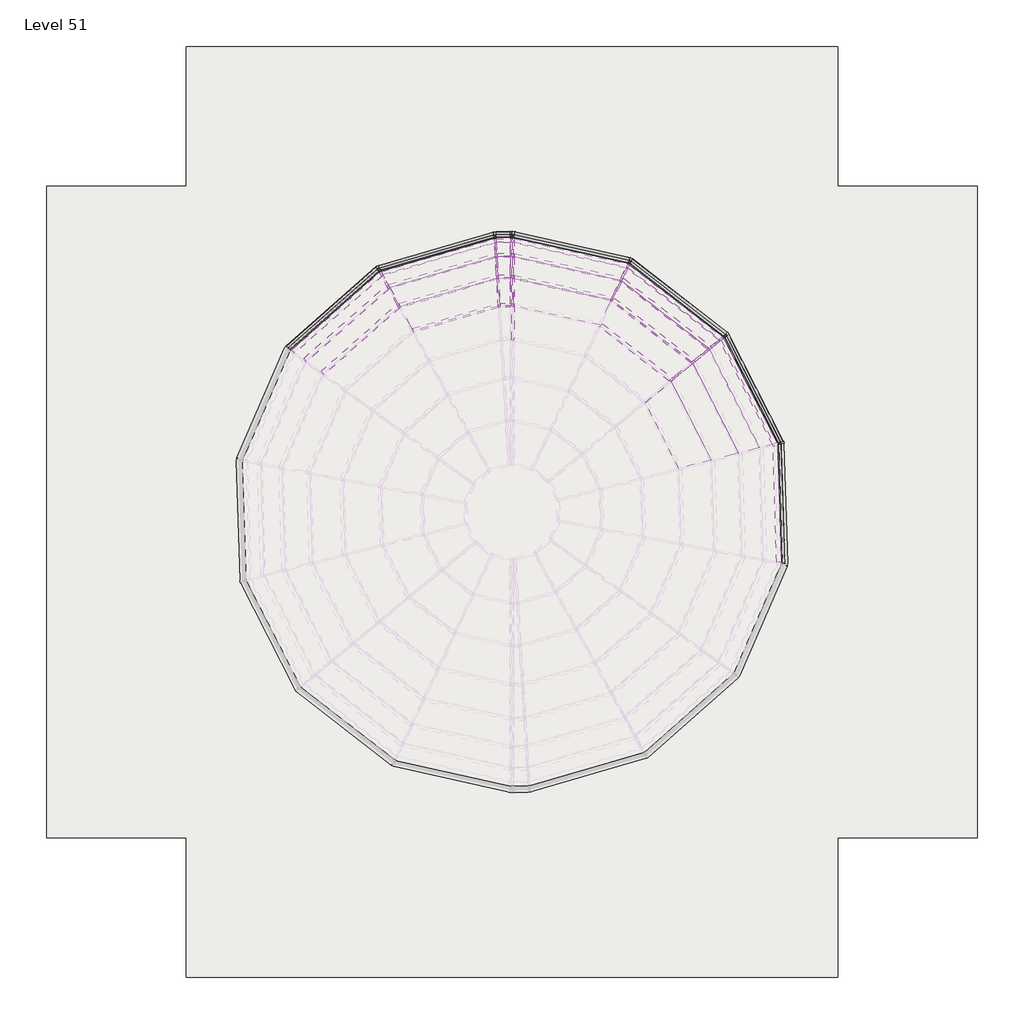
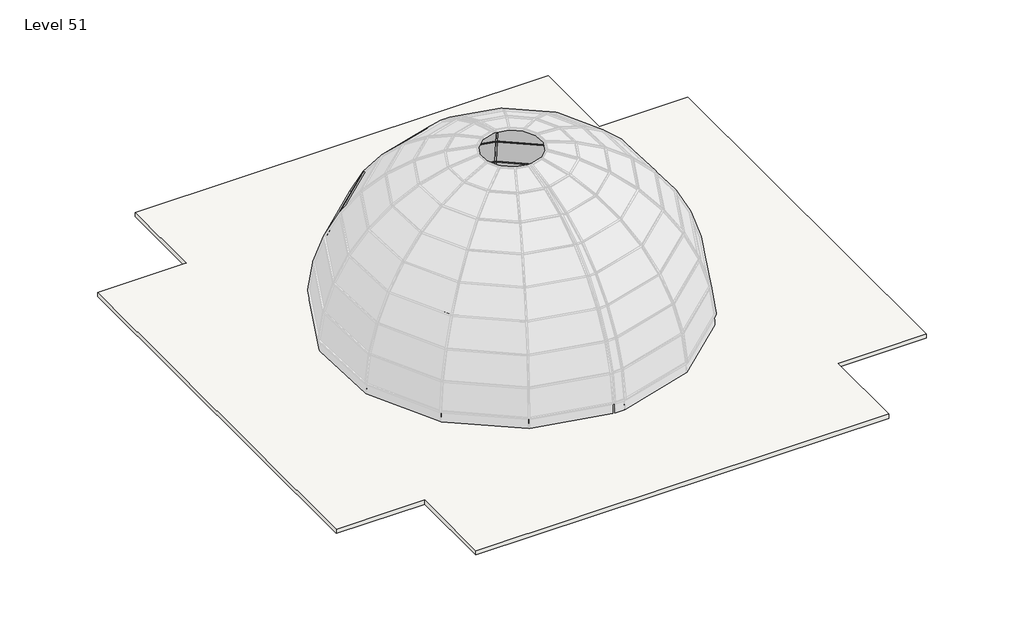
# One storey, part 5 of 5: 50 members, 29 plates, 1 roof.
"""IFC4 building model written with IfcOpenShell, lengths in millimetres."""

from ifc_helpers import new_model, si_unit, frame, origin, place, context, project, spatial, polyline, outline, extrude, transform, mapped, element, save
from components import member_d183bd50, member_3761eb40, member_c8fdef67, member_19265363, member_bab2e2f0, member_1b14bcb5, member_1e4e3dac, member_4ad3c4be, member_44404943, member_f539bf5b, member_d9f9b3f1, member_01029f2d, member_43068072, member_3efaebad, member_1612663b, member_5eaec6db, member_6411af83, member_606bd935, member_05436e89, member_70710cef, member_ac0e8256, member_b7186879, member_3d04d663, member_1ac3cc72, member_84afa52a, system_panel_glazed_891999a5, system_panel_glazed_607d1a2e, system_panel_glazed_cbcbf4f6, system_panel_glazed_3a6c43c9, system_panel_glazed_65fa72c3, system_panel_glazed_e82b84bd, system_panel_glazed_8c73bb97, system_panel_glazed_248316cd, system_panel_glazed_11359935, system_panel_glazed_cbb9f742, system_panel_glazed_d27af8dd, system_panel_glazed_44e6ebe2, system_panel_glazed_fd8bc869, system_panel_glazed_955ccf0d, system_panel_glazed_4a3a9a20, system_panel_glazed_d1219a01

model = new_model("IFC4")

# Units and contexts
model_context = context("Model", 3, world=origin())
ifc_project = project(units=[si_unit("LENGTHUNIT", "METRE", prefix="MILLI")], contexts=[model_context])

# Site, building, storey
site = spatial("IfcSite", under=ifc_project)
building = spatial("IfcBuilding", under=site)
storey = spatial("IfcBuildingStorey", under=building, Name="Level 51", Elevation=152400.0)

# Members
placement = place(None, origin())
member_shape = member_d183bd50(model_context)
element("IfcMember", 1, ObjectType="Rectangular Mullion : 2.5\" x 5\" rectangular", at=placement, inside=storey, context=model_context, shape_type="MappedRepresentation", body=[
    mapped(member_shape, transform((-893.6915097, 1788.891923, 153025.5719668), x_axis=(-0.04631017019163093, 0.052617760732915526, -0.9975403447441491), y_axis=(-0.6590554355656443, 0.7488208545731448, 0.07009465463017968), z_axis=(0.7506672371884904, 0.6606804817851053, 0.0))),
])
element("IfcMember", 2, ObjectType="Rectangular Mullion : 2.5\" x 5\" rectangular", at=placement, inside=storey, context=model_context, shape_type="MappedRepresentation", body=[
    mapped(member_shape, transform((2924.0779015, 2908.0188385, 153025.5719668), x_axis=(-0.019488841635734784, 0.06733086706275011, -0.9975403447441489), y_axis=(-0.2773521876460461, 0.9582079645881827, 0.07009465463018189), z_axis=(0.9605706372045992, 0.2780360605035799, 0.0))),
])
element("IfcMember", 3, ObjectType="Rectangular Mullion : 2.5\" x 5\" rectangular", at=placement, inside=storey, context=model_context, shape_type="MappedRepresentation", body=[
    mapped(member_shape, transform((10523.398686, -356.0730313, 153025.5719668), x_axis=(0.042974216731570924, 0.055375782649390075, -0.997540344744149), y_axis=(0.6115803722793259, 0.788071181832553, 0.07009465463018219), z_axis=(0.7900143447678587, -0.6130883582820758, 0.0))),
])
element("IfcMember", 4, ObjectType="Rectangular Mullion : 2.5\" x 5\" rectangular", at=placement, inside=storey, context=model_context, shape_type="MappedRepresentation", body=[
    mapped(member_shape, transform((12340.2476125, -3895.4046503, 153025.5719668), x_axis=(0.06246696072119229, 0.03179841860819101, -0.9975403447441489), y_axis=(0.8889880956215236, 0.45253387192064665, 0.07009465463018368), z_axis=(0.45364969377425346, -0.8911800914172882, 0.0))),
])
member_2_shape = member_3761eb40(model_context)
element("IfcMember", 5, ObjectType="Rectangular Mullion : 2.5\" x 5\" rectangular", at=placement, inside=storey, context=model_context, shape_type="MappedRepresentation", body=[
    mapped(member_2_shape, transform((3454.1673289, 2932.2790112, 153025.5719668), x_axis=(-0.0021133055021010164, 0.06841322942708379, -0.9976548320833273), y_axis=(-0.03080316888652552, 0.9971791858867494, 0.06844586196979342), z_axis=(0.9995232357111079, 0.0308755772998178, 0.0))),
])
member_3_shape = member_c8fdef67(model_context)
element("IfcMember", 6, ObjectType="Rectangular Mullion : 2.5\" x 5\" rectangular", at=placement, inside=storey, context=model_context, shape_type="MappedRepresentation", body=[
    mapped(member_3_shape, transform((3454.1673289, 2224.0761441, 155979.2538554), x_axis=(-0.01209056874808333, 0.39140335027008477, -0.9201397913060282), y_axis=(-0.028409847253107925, 0.9197011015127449, 0.3915900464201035), z_axis=(0.9995232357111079, 0.030875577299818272, 0.0))),
])
member_4_shape = member_19265363(model_context)
element("IfcMember", 7, ObjectType="Rectangular Mullion : 2.5\" x 5\" rectangular", at=placement, inside=storey, context=model_context, shape_type="MappedRepresentation", body=[
    mapped(member_4_shape, transform((7273.9015864, 1863.7115372, 154532.0243606), x_axis=(0.05206567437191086, 0.23284477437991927, -0.9711191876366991), y_axis=(0.21191558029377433, 0.9477152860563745, 0.23859489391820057), z_axis=(0.9759000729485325, -0.21821789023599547, 0.0))),
])
member_5_shape = member_bab2e2f0(model_context)
element("IfcMember", 8, ObjectType="Rectangular Mullion : 2.5\" x 5\" rectangular", at=placement, inside=storey, context=model_context, shape_type="MappedRepresentation", body=[
    mapped(member_5_shape, transform((-782.7837843, 1586.712147, 154532.0243606), x_axis=(-0.15763498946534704, 0.17910536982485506, -0.9711191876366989), y_axis=(-0.6415994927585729, 0.728987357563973, 0.2385948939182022), z_axis=(0.7506672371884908, 0.6606804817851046, 0.0))),
])
element("IfcMember", 9, ObjectType="Rectangular Mullion : 2.5\" x 5\" rectangular", at=placement, inside=storey, context=model_context, shape_type="MappedRepresentation", body=[
    mapped(member_5_shape, transform((2938.3110392, 2677.8567149, 154532.0243606), x_axis=(-0.06633798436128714, 0.22918724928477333, -0.9711191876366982), y_axis=(-0.27000615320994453, 0.932828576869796, 0.23859489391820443), z_axis=(0.9605706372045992, 0.27803606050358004, 0.0))),
])
element("IfcMember", 10, ObjectType="Rectangular Mullion : 2.5\" x 5\" rectangular", at=placement, inside=storey, context=model_context, shape_type="MappedRepresentation", body=[
    mapped(member_5_shape, transform((10345.6719873, -503.0097725, 154532.0243606), x_axis=(0.14627975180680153, 0.18849338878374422, -0.9711191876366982), y_axis=(0.5953818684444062, 0.7671980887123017, 0.2385948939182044), z_axis=(0.7900143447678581, -0.6130883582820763, 0.0))),
])
element("IfcMember", 11, ObjectType="Rectangular Mullion : 2.5\" x 5\" rectangular", at=placement, inside=storey, context=model_context, shape_type="MappedRepresentation", body=[
    mapped(member_5_shape, transform((12116.8643057, -3952.6504676, 154532.0243606), x_axis=(0.21263101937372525, 0.10823850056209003, -0.9711191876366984), y_axis=(0.8654420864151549, 0.4405479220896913, 0.23859489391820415), z_axis=(0.4536496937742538, -0.8911800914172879, 0.0))),
])
element("IfcMember", 12, ObjectType="Rectangular Mullion : 2.5\" x 5\" rectangular", at=placement, inside=storey, context=model_context, shape_type="MappedRepresentation", body=[
    mapped(member_5_shape, transform((12250.1085762, -7828.1361298, 154532.0243606), x_axis=(0.23848114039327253, 0.007366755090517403, -0.9711191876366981), y_axis=(0.9706561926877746, 0.029983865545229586, 0.23859489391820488), z_axis=(0.03087557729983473, -0.9995232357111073, 0.0))),
])
member_6_shape = member_1b14bcb5(model_context)
element("IfcMember", 13, ObjectType="Rectangular Mullion : 2.5\" x 5\" rectangular", at=placement, inside=storey, context=model_context, shape_type="MappedRepresentation", body=[
    mapped(member_6_shape, transform((3454.1673289, 2701.6772216, 154532.0243606), x_axis=(-0.00720222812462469, 0.23315497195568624, -0.9724129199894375), y_axis=(-0.03002381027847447, 0.9719493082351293, 0.2332661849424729), z_axis=(0.9995232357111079, 0.030875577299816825, 0.0))),
])
member_7_shape = member_1e4e3dac(model_context)
element("IfcMember", 14, ObjectType="Rectangular Mullion : 2.5\" x 5\" rectangular", at=placement, inside=storey, context=model_context, shape_type="MappedRepresentation", body=[
    mapped(member_7_shape, transform((7372.1189725, 2072.3512516, 153025.5719668), x_axis=(0.015295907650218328, 0.0684053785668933, -0.9975403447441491), y_axis=(0.21768114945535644, 0.9734996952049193, 0.07009465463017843), z_axis=(0.9759000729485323, -0.21821789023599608, 0.0))),
])
member_8_shape = member_4ad3c4be(model_context)
element("IfcMember", 15, ObjectType="Rectangular Mullion : 2.5\" x 5\" rectangular", at=placement, inside=storey, context=model_context, shape_type="MappedRepresentation", body=[
    mapped(member_8_shape, transform((-210.9666767, 544.3153768, 157327.0596321), x_axis=(-0.3621663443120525, 0.41149453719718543, -0.8363658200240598), y_axis=(-0.5525705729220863, 0.6278324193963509, 0.5481717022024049), z_axis=(0.7506672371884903, 0.6606804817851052, 0.0))),
])
element("IfcMember", 16, ObjectType="Rectangular Mullion : 2.5\" x 5\" rectangular", at=placement, inside=storey, context=model_context, shape_type="MappedRepresentation", body=[
    mapped(member_8_shape, transform((3011.6941294, 1491.1887945, 157327.0596321), x_axis=(-0.15241150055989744, 0.5265576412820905, -0.836365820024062), y_axis=(-0.23253985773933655, 0.8033884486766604, 0.5481717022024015), z_axis=(0.960570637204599, 0.27803606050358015, 0.0))),
])
element("IfcMember", 17, ObjectType="Rectangular Mullion : 2.5\" x 5\" rectangular", at=placement, inside=storey, context=model_context, shape_type="MappedRepresentation", body=[
    mapped(member_8_shape, transform((9429.3501848, -1260.5849737, 157327.0596321), x_axis=(0.33607768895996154, 0.4330635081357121, -0.8363658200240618), y_axis=(0.5127661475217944, 0.6607409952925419, 0.5481717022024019), z_axis=(0.7900143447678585, -0.613088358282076, 0.0))),
])
member_9_shape = member_44404943(model_context)
element("IfcMember", 18, ObjectType="Rectangular Mullion : 2.5\" x 5\" rectangular", at=placement, inside=storey, context=model_context, shape_type="MappedRepresentation", body=[
    mapped(member_9_shape, transform((3454.1673289, 1512.7424752, 157327.0596321), x_axis=(-0.016642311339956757, 0.5387551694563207, -0.8422979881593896), y_axis=(-0.026006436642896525, 0.8418964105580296, 0.5390121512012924), z_axis=(0.9995232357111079, 0.030875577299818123, 0.0))),
])
member_10_shape = member_f539bf5b(model_context)
element("IfcMember", 19, ObjectType="Rectangular Mullion : 2.5\" x 5\" rectangular", at=placement, inside=storey, context=model_context, shape_type="MappedRepresentation", body=[
    mapped(member_10_shape, transform((7070.4828292, 1431.5962766, 155979.2538554), x_axis=(0.08719349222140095, 0.3899411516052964, -0.9167023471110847), y_axis=(0.20004085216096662, 0.8946098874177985, 0.39957077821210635), z_axis=(0.9759000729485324, -0.21821789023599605, 0.0))),
])
member_11_shape = member_d9f9b3f1(model_context)
element("IfcMember", 20, ObjectType="Rectangular Mullion : 2.5\" x 5\" rectangular", at=placement, inside=storey, context=model_context, shape_type="MappedRepresentation", body=[
    mapped(member_11_shape, transform((-553.0819714, 1167.9761128, 155979.2538554), x_axis=(-0.2639886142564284, 0.2999446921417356, -0.9167023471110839), y_axis=(-0.6056473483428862, 0.6881384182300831, 0.3995707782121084), z_axis=(0.7506672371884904, 0.6606804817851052, 0.0))),
])
element("IfcMember", 21, ObjectType="Rectangular Mullion : 2.5\" x 5\" rectangular", at=placement, inside=storey, context=model_context, shape_type="MappedRepresentation", body=[
    mapped(member_11_shape, transform((2967.7893963, 2201.1662328, 155979.2538554), x_axis=(-0.11109508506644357, 0.3838159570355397, -0.9167023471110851), y_axis=(-0.2548763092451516, 0.8805573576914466, 0.3995707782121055), z_axis=(0.9605706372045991, 0.27803606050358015, 0.0))),
])
element("IfcMember", 22, ObjectType="Rectangular Mullion : 2.5\" x 5\" rectangular", at=placement, inside=storey, context=model_context, shape_type="MappedRepresentation", body=[
    mapped(member_11_shape, transform((9977.5809028, -807.3315475, 155979.2538554), x_axis=(0.2449721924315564, 0.3156666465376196, -0.9167023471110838), y_axis=(0.5620195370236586, 0.7242080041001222, 0.3995707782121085), z_axis=(0.7900143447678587, -0.6130883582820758, 0.0))),
])
member_12_shape = member_01029f2d(model_context)
element("IfcMember", 23, ObjectType="Rectangular Mullion : 2.5\" x 5\" rectangular", at=placement, inside=storey, context=model_context, shape_type="MappedRepresentation", body=[
    mapped(member_12_shape, transform((3068.8056628, 567.6459956, 158538.0026411), x_axis=(-0.18912489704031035, 0.6533966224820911, -0.7330106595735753), y_axis=(-0.20380339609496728, 0.7041085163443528, 0.6802171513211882), z_axis=(0.9605706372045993, 0.2780360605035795, 0.0))),
])
element("IfcMember", 24, ObjectType="Rectangular Mullion : 2.5\" x 5\" rectangular", at=placement, inside=storey, context=model_context, shape_type="MappedRepresentation", body=[
    mapped(member_12_shape, transform((8716.2084645, -1850.1796781, 158538.0026411), x_axis=(0.4170332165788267, 0.5373813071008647, -0.7330106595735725), y_axis=(0.44940030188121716, 0.5790889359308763, 0.6802171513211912), z_axis=(0.7900143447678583, -0.6130883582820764, 0.0))),
])
member_13_shape = member_43068072(model_context)
element("IfcMember", 25, ObjectType="Rectangular Mullion : 2.5\" x 5\" rectangular", at=placement, inside=storey, context=model_context, shape_type="MappedRepresentation", body=[
    mapped(member_13_shape, transform((3454.1673289, 587.4354836, 158538.0026411), x_axis=(-0.020730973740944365, 0.6711158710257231, -0.7410625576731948), y_axis=(-0.022880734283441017, 0.7407092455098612, 0.6714359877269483), z_axis=(0.9995232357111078, 0.030875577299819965, 0.0))),
])
member_14_shape = member_3efaebad(model_context)
element("IfcMember", 26, ObjectType="Rectangular Mullion : 2.5\" x 5\" rectangular", at=placement, inside=storey, context=model_context, shape_type="MappedRepresentation", body=[
    mapped(member_14_shape, transform((6767.5132219, 788.0086715, 157327.0596321), x_axis=(0.1196208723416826, 0.534960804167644, -0.8363658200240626), y_axis=(0.1825099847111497, 0.8162094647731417, 0.5481717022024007), z_axis=(0.9759000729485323, -0.21821789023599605, 0.0))),
])
member_15_shape = member_1612663b(model_context)
element("IfcMember", 27, ObjectType="Rectangular Mullion : 2.5\" x 5\" rectangular", at=placement, inside=storey, context=model_context, shape_type="MappedRepresentation", body=[
    mapped(member_15_shape, transform((-187.1329919, 565.2919821, 157327.0596321), x_axis=(0.8767485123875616, 0.4809491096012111, 0.0), y_axis=(-0.4253451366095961, 0.7753849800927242, 0.46675437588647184), z_axis=(0.22448510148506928, -0.409226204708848, 0.8843869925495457))),
])
element("IfcMember", 28, ObjectType="Rectangular Mullion : 2.5\" x 5\" rectangular", at=placement, inside=storey, context=model_context, shape_type="MappedRepresentation", body=[
    mapped(member_15_shape, transform((-529.2482866, 1188.9527181, 155979.2538554), x_axis=(0.8767485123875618, 0.4809491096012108, 0.0), y_axis=(-0.45672161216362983, 0.8325828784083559, 0.3133865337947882), z_axis=(0.15072297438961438, -0.27476117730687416, 0.9496256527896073))),
])
element("IfcMember", 29, ObjectType="Rectangular Mullion : 2.5\" x 5\" rectangular", at=placement, inside=storey, context=model_context, shape_type="MappedRepresentation", body=[
    mapped(member_15_shape, transform((3099.3037805, 576.4736405, 158538.0026411), x_axis=(0.9980933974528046, 0.061721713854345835, 0.0), y_axis=(-0.04904296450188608, 0.7930670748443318, 0.6071568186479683), z_axis=(0.037474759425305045, -0.605999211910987, 0.7945820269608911))),
])
element("IfcMember", 30, ObjectType="Rectangular Mullion : 2.5\" x 5\" rectangular", at=placement, inside=storey, context=model_context, shape_type="MappedRepresentation", body=[
    mapped(member_15_shape, transform((3042.1922472, 1500.0164394, 157327.0596321), x_axis=(0.9980933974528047, 0.06172171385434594, 0.0), y_axis=(-0.05458588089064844, 0.8827008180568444, 0.4667543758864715), z_axis=(0.028808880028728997, -0.46586446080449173, 0.8843869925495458))),
])
element("IfcMember", 31, ObjectType="Rectangular Mullion : 2.5\" x 5\" rectangular", at=placement, inside=storey, context=model_context, shape_type="MappedRepresentation", body=[
    mapped(member_15_shape, transform((2998.287514, 2209.9938777, 155979.2538554), x_axis=(0.9980933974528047, 0.06172171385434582, 0.0), y_axis=(-0.058612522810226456, 0.9478150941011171, 0.31338653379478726), z_axis=(0.01934275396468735, -0.31278903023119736, 0.9496256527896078))),
])
element("IfcMember", 32, ObjectType="Rectangular Mullion : 2.5\" x 5\" rectangular", at=placement, inside=storey, context=model_context, shape_type="MappedRepresentation", body=[
    mapped(member_15_shape, transform((8741.29142, -1869.6452335, 158538.0026411), x_axis=(0.6371882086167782, -0.7707082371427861, 0.0), y_axis=(0.6123909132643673, 0.5062982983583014, 0.6071568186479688), z_axis=(-0.46794076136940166, -0.38687316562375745, 0.7945820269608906))),
])
element("IfcMember", 33, ObjectType="Rectangular Mullion : 2.5\" x 5\" rectangular", at=placement, inside=storey, context=model_context, shape_type="MappedRepresentation", body=[
    mapped(member_15_shape, transform((9454.4331403, -1280.0505291, 157327.0596321), x_axis=(0.6371882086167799, -0.7707082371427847, 0.0), y_axis=(0.6816043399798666, 0.563520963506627, 0.4667543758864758), z_axis=(-0.35973144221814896, -0.2974103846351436, 0.8843869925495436))),
])
element("IfcMember", 34, ObjectType="Rectangular Mullion : 2.5\" x 5\" rectangular", at=placement, inside=storey, context=model_context, shape_type="MappedRepresentation", body=[
    mapped(member_15_shape, transform((10002.6638582, -826.7971029, 155979.2538554), x_axis=(0.6371882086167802, -0.7707082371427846, 0.0), y_axis=(0.7318843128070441, 0.6050902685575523, 0.3133865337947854), z_axis=(-0.24152958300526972, -0.19968620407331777, 0.9496256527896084))),
])
element("IfcMember", 35, ObjectType="Rectangular Mullion : 2.5\" x 5\" rectangular", at=placement, inside=storey, context=model_context, shape_type="MappedRepresentation", body=[
    mapped(member_15_shape, transform((6798.4980492, 781.0802535, 157327.0596321), x_axis=(0.9047619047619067, -0.42591770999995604, 0.0), y_axis=(0.37667608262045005, 0.8001596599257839, 0.46675437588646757), z_axis=(-0.19879895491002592, -0.4223015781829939, 0.8843869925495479))),
])
element("IfcMember", 36, ObjectType="Rectangular Mullion : 2.5\" x 5\" rectangular", at=placement, inside=storey, context=model_context, shape_type="MappedRepresentation", body=[
    mapped(member_15_shape, transform((7101.4676565, 1424.6678586, 155979.2538554), x_axis=(0.9047619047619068, -0.42591770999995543, 0.0), y_axis=(0.40446238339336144, 0.8591851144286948, 0.3133865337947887), z_axis=(-0.13347687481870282, -0.28354019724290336, 0.9496256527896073))),
])
member_16_shape = member_5eaec6db(model_context)
element("IfcMember", 37, ObjectType="Rectangular Mullion : 2.5\" x 5\" rectangular", at=placement, inside=storey, context=model_context, shape_type="MappedRepresentation", body=[
    mapped(member_16_shape, transform((-758.9500996, 1607.6887523, 154532.0243606), x_axis=(0.8767485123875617, 0.48094910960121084, 0.0), y_axis=(-0.47541137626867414, 0.8666534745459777, 0.15131351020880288), z_axis=(0.07277409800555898, -0.1326638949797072, 0.9884858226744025))),
])
element("IfcMember", 38, ObjectType="Rectangular Mullion : 2.5\" x 5\" rectangular", at=placement, inside=storey, context=model_context, shape_type="MappedRepresentation", body=[
    mapped(member_16_shape, transform((2968.8091569, 2686.6843598, 154532.0243606), x_axis=(0.9980933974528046, 0.06172171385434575, 0.0), y_axis=(-0.06101103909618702, 0.9866011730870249, 0.15131351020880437), z_axis=(0.009339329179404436, -0.1510250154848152, 0.9884858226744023))),
])
element("IfcMember", 39, ObjectType="Rectangular Mullion : 2.5\" x 5\" rectangular", at=placement, inside=storey, context=model_context, shape_type="MappedRepresentation", body=[
    mapped(member_16_shape, transform((10370.7549427, -522.4753279, 154532.0243606), x_axis=(0.6371882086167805, -0.7707082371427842, 0.0), y_axis=(0.7618341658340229, 0.6298515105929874, 0.15131351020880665), z_axis=(-0.1166185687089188, -0.09641518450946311, 0.988485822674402))),
])
element("IfcMember", 40, ObjectType="Rectangular Mullion : 2.5\" x 5\" rectangular", at=placement, inside=storey, context=model_context, shape_type="MappedRepresentation", body=[
    mapped(member_16_shape, transform((12131.2676835, -3980.9454355, 154532.0243606), x_axis=(0.2482453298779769, -0.9686971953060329, 0.0), y_axis=(0.9575434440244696, 0.2453869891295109, 0.15131351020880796), z_axis=(-0.14657697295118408, -0.037562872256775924, 0.9884858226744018))),
])
element("IfcMember", 41, ObjectType="Rectangular Mullion : 2.5\" x 5\" rectangular", at=placement, inside=storey, context=model_context, shape_type="MappedRepresentation", body=[
    mapped(member_16_shape, transform((7304.8864137, 1856.7831192, 154532.0243606), x_axis=(0.9047619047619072, -0.42591770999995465, 0.0), y_axis=(0.4210136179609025, 0.8943443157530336, 0.15131351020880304), z_axis=(-0.06444710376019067, -0.13690269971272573, 0.9884858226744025))),
])
member_17_shape = member_6411af83(model_context)
element("IfcMember", 42, ObjectType="Rectangular Mullion : 2.5\" x 5\" rectangular", at=placement, inside=storey, context=model_context, shape_type="MappedRepresentation", body=[
    mapped(member_17_shape, transform((3517.6370544, 2226.0367432, 155979.2538554), x_axis=(0.9995700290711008, 0.027844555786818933, 0.009188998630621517), y_axis=(-0.029321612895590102, 0.9492173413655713, 0.313251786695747), z_axis=(0.0, -0.31338653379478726, 0.9496256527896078))),
])
member_18_shape = member_606bd935(model_context)
element("IfcMember", 43, ObjectType="Rectangular Mullion : 2.5\" x 5\" rectangular", at=placement, inside=storey, context=model_context, shape_type="MappedRepresentation", body=[
    mapped(member_18_shape, transform((3517.6370544, 2703.6378208, 154532.0243606), x_axis=(0.9995341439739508, 0.030168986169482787, 0.004618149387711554), y_axis=(-0.030520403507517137, 0.9880253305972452, 0.15124301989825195), z_axis=(0.0, -0.15131351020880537, 0.9884858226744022))),
])
member_19_shape = member_05436e89(model_context)
element("IfcMember", 44, ObjectType="Rectangular Mullion : 2.5\" x 5\" rectangular", at=placement, inside=storey, context=model_context, shape_type="MappedRepresentation", body=[
    mapped(member_19_shape, transform((3517.6370544, 589.3960828, 158538.0026411), x_axis=(0.99969891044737, 0.01949704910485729, 0.014898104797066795), y_axis=(-0.02453749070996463, 0.7943427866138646, 0.6069740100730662), z_axis=(0.0, -0.6071568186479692, 0.7945820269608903))),
])
member_20_shape = member_70710cef(model_context)
element("IfcMember", 45, ObjectType="Rectangular Mullion : 2.5\" x 5\" rectangular", at=placement, inside=storey, context=model_context, shape_type="MappedRepresentation", body=[
    mapped(member_20_shape, transform((3517.6370544, 1514.7030744, 157327.0596321), x_axis=(0.9996270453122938, 0.02415154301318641, 0.012746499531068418), y_axis=(-0.027308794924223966, 0.8840571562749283, 0.4665802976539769), z_axis=(0.0, -0.4667543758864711, 0.884386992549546))),
])
member_21_shape = member_ac0e8256(model_context)
element("IfcMember", 46, ObjectType="Rectangular Mullion : 2.5\" x 5\" rectangular", at=placement, inside=storey, context=model_context, shape_type="MappedRepresentation", body=[
    mapped(member_21_shape, transform((3517.6370544, 589.3960828, 158538.0026411), x_axis=(-0.9885476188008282, 0.10302655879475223, 0.1102684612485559), y_axis=(0.15090926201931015, 0.6748867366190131, 0.7223256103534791), z_axis=(0.0, 0.730693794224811, -0.6827053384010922))),
])
member_22_shape = member_b7186879(model_context)
element("IfcMember", 47, ObjectType="Rectangular Mullion : 2.5\" x 5\" rectangular", at=placement, inside=storey, context=model_context, shape_type="MappedRepresentation", body=[
    mapped(member_22_shape, transform((3517.6370544, 1514.7030744, 157327.0596321), x_axis=(-0.9845801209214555, 0.13899959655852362, 0.1062125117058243), y_axis=(0.17493423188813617, 0.7823296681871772, 0.5977945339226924), z_axis=(0.0, 0.6071568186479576, -0.7945820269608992))),
])
member_23_shape = member_3d04d663(model_context)
element("IfcMember", 48, ObjectType="Rectangular Mullion : 2.5\" x 5\" rectangular", at=placement, inside=storey, context=model_context, shape_type="MappedRepresentation", body=[
    mapped(member_23_shape, transform((3517.6370544, 2226.0367432, 155979.2538554), x_axis=(-0.9810019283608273, 0.1715692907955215, 0.09054940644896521), y_axis=(0.19399798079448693, 0.8675853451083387, 0.45788694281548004), z_axis=(0.0, 0.4667543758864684, -0.8843869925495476))),
])
member_24_shape = member_1ac3cc72(model_context)
element("IfcMember", 49, ObjectType="Rectangular Mullion : 2.5\" x 5\" rectangular", at=placement, inside=storey, context=model_context, shape_type="MappedRepresentation", body=[
    mapped(member_24_shape, transform((3517.6370544, 2703.6378208, 154532.0243606), x_axis=(-0.9781901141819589, 0.19724824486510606, 0.06509401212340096), y_axis=(0.20771158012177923, 0.9289144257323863, 0.3065516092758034), z_axis=(0.0, 0.3133865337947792, -0.9496256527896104))),
])
member_25_shape = member_84afa52a(model_context)
element("IfcMember", 50, ObjectType="Rectangular Mullion : 2.5\" x 5\" rectangular", at=placement, inside=storey, context=model_context, shape_type="MappedRepresentation", body=[
    mapped(member_25_shape, transform((3517.6370544, 2934.2396103, 153025.5719668), x_axis=(-0.9764325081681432, 0.21333795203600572, 0.0326569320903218), y_axis=(0.21582297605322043, 0.9651896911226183, 0.14774743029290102), z_axis=(0.0, 0.1513135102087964, -0.9884858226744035))),
])

# Plates
system_panel_glazed_shape = system_panel_glazed_891999a5(model_context)
element("IfcPlate", 51, ObjectType="System Panel : Glazed", at=placement, inside=storey, context=model_context, shape_type="MappedRepresentation", body=[
    mapped(system_panel_glazed_shape, transform((8464.2064714, -3670.316088, 159556.4887654), x_axis=(0.45364969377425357, -0.8911800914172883, 0.0), y_axis=(-0.6162983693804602, -0.31372285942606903, -0.7223256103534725), z_axis=(0.643722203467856, 0.32768279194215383, -0.6915531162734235))),
])
system_panel_glazed_2_shape = system_panel_glazed_607d1a2e(model_context)
element("IfcPlate", 52, ObjectType="System Panel : Glazed", at=placement, inside=storey, context=model_context, shape_type="MappedRepresentation", body=[
    mapped(system_panel_glazed_2_shape, transform((4980.7872142, 281.6744493, 158512.550274), x_axis=(0.9759000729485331, -0.21821789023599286, 0.0), y_axis=(-0.17493423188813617, -0.7823296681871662, -0.5977945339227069), z_axis=(0.13044946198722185, 0.583387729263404, -0.8016493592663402))),
])
system_panel_glazed_3_shape = system_panel_glazed_cbcbf4f6(model_context)
element("IfcPlate", 53, ObjectType="System Panel : Glazed", at=placement, inside=storey, context=model_context, shape_type="MappedRepresentation", body=[
    mapped(system_panel_glazed_3_shape, transform((1673.3210633, 183.4836552, 158512.550274), x_axis=(0.9605706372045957, 0.2780360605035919, 0.0), y_axis=(0.22288742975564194, -0.7700408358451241, -0.5977945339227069), z_axis=(-0.1662084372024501, 0.5742238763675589, -0.8016493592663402))),
])
element("IfcPlate", 54, ObjectType="System Panel : Glazed", at=placement, inside=storey, context=model_context, shape_type="MappedRepresentation", body=[
    mapped(system_panel_glazed_3_shape, transform((9429.164108, -3179.1103929, 158512.550274), x_axis=(0.453649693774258, -0.8911800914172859, 0.0), y_axis=(-0.714413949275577, -0.3636679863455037, -0.5977945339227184), z_axis=(0.5327425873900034, 0.27118930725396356, -0.8016493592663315))),
])
system_panel_glazed_4_shape = system_panel_glazed_3a6c43c9(model_context)
element("IfcPlate", 55, ObjectType="System Panel : Glazed", at=placement, inside=storey, context=model_context, shape_type="MappedRepresentation", body=[
    mapped(system_panel_glazed_4_shape, transform((3292.0051809, 601.7068626, 158512.7702278), x_axis=(0.9995232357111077, 0.030875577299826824, 0.0), y_axis=(0.024537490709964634, -0.7943427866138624, -0.6069740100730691), z_axis=(-0.01874067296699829, 0.6066846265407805, -0.794721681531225))),
])
system_panel_glazed_5_shape = system_panel_glazed_65fa72c3(model_context)
element("IfcPlate", 56, ObjectType="System Panel : Glazed", at=placement, inside=storey, context=model_context, shape_type="MappedRepresentation", body=[
    mapped(system_panel_glazed_5_shape, transform((5176.8133895, 1158.5968924, 157298.8335509), x_axis=(0.9759000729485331, -0.218217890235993, 0.0), y_axis=(-0.19399798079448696, -0.8675853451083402, -0.4578869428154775), z_axis=(0.09991912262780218, 0.4468519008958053, -0.889010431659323))),
])
system_panel_glazed_6_shape = system_panel_glazed_e82b84bd(model_context)
element("IfcPlate", 57, ObjectType="System Panel : Glazed", at=placement, inside=storey, context=model_context, shape_type="MappedRepresentation", body=[
    mapped(system_panel_glazed_6_shape, transform((1423.4875643, 1046.6189007, 157298.8335509), x_axis=(0.9605706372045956, 0.27803606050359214, 0.0), y_axis=(0.24717695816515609, -0.8539573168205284, -0.4578869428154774), z_axis=(-0.12730908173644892, 0.4398327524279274, -0.889010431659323))),
])
element("IfcPlate", 58, ObjectType="System Panel : Glazed", at=placement, inside=storey, context=model_context, shape_type="MappedRepresentation", body=[
    mapped(system_panel_glazed_6_shape, transform((8135.3786184, -237.99998, 157298.8335509), x_axis=(0.7900143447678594, -0.6130883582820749, 0.0), y_axis=(-0.5450419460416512, -0.7023309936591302, -0.45788694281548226), z_axis=(0.28072515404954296, 0.36173725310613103, -0.8890104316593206))),
])
element("IfcPlate", 59, ObjectType="System Panel : Glazed", at=placement, inside=storey, context=model_context, shape_type="MappedRepresentation", body=[
    mapped(system_panel_glazed_6_shape, transform((10229.9474311, -2771.4766128, 157298.8335509), x_axis=(0.45364969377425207, -0.8911800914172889, 0.0), y_axis=(-0.7922683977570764, -0.403299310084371, -0.4578869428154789), z_axis=(0.4080597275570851, 0.20772027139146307, -0.8890104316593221))),
])
system_panel_glazed_7_shape = system_panel_glazed_8c73bb97(model_context)
element("IfcPlate", 60, ObjectType="System Panel : Glazed", at=placement, inside=storey, context=model_context, shape_type="MappedRepresentation", body=[
    mapped(system_panel_glazed_7_shape, transform((3263.5881829, 1521.6764179, 157298.9774288), x_axis=(0.9995232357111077, 0.030875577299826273, 0.0), y_axis=(0.027308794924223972, -0.884057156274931, -0.466580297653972), z_axis=(-0.0144059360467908, 0.46635784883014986, -0.8844788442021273))),
])
system_panel_glazed_8_shape = system_panel_glazed_248316cd(model_context)
element("IfcPlate", 61, ObjectType="System Panel : Glazed", at=placement, inside=storey, context=model_context, shape_type="MappedRepresentation", body=[
    mapped(system_panel_glazed_8_shape, transform((5327.2050412, 1831.3784115, 155949.0324897), x_axis=(0.9759000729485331, -0.21821789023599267, 0.0), y_axis=(-0.20771158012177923, -0.9289144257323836, -0.30655160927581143), z_axis=(0.06689504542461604, 0.2991637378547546, -0.951854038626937))),
])
system_panel_glazed_9_shape = system_panel_glazed_11359935(model_context)
element("IfcPlate", 62, ObjectType="System Panel : Glazed", at=placement, inside=storey, context=model_context, shape_type="MappedRepresentation", body=[
    mapped(system_panel_glazed_9_shape, transform((1231.8134849, 1708.822545, 155949.0324897), x_axis=(0.9605706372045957, 0.2780360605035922, 0.0), y_axis=(0.2646497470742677, -0.914323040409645, -0.3065516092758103), z_axis=(-0.08523240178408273, 0.2944644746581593, -0.9518540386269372))),
])
element("IfcPlate", 63, ObjectType="System Panel : Glazed", at=placement, inside=storey, context=model_context, shape_type="MappedRepresentation", body=[
    mapped(system_panel_glazed_9_shape, transform((8558.0329547, 306.6245982, 155949.0324897), x_axis=(0.7900143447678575, -0.6130883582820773, 0.0), y_axis=(-0.5835706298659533, -0.7519783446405, -0.3065516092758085), z_axis=(0.1879432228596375, 0.24218016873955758, -0.9518540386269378))),
])
element("IfcPlate", 64, ObjectType="System Panel : Glazed", at=placement, inside=storey, context=model_context, shape_type="MappedRepresentation", body=[
    mapped(system_panel_glazed_9_shape, transform((10844.3142267, -2458.7370091, 155949.0324897), x_axis=(0.45364969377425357, -0.8911800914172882, 0.0), y_axis=(-0.8482733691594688, -0.43180829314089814, -0.3065516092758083), z_axis=(0.27319269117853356, 0.13906704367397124, -0.9518540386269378))),
])
system_panel_glazed_10_shape = system_panel_glazed_cbb9f742(model_context)
element("IfcPlate", 65, ObjectType="System Panel : Glazed", at=placement, inside=storey, context=model_context, shape_type="MappedRepresentation", body=[
    mapped(system_panel_glazed_10_shape, transform((3241.7870294, 2227.4661402, 155949.1018294), x_axis=(0.9995232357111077, 0.030875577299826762, 0.0), y_axis=(0.029321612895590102, -0.9492173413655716, -0.3132517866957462), z_axis=(-0.009671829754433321, 0.313102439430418, -0.9496701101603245))),
])
system_panel_glazed_11_shape = system_panel_glazed_d27af8dd(model_context)
element("IfcPlate", 66, ObjectType="System Panel : Glazed", at=placement, inside=storey, context=model_context, shape_type="MappedRepresentation", body=[
    mapped(system_panel_glazed_11_shape, transform((5427.7862561, 2281.3222996, 154500.6228129), x_axis=(0.9759000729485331, -0.218217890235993, 0.0), y_axis=(-0.21582297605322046, -0.9651896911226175, -0.1477474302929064), z_axis=(0.03224113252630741, 0.14418672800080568, -0.9890251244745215))),
])
system_panel_glazed_12_shape = system_panel_glazed_44e6ebe2(model_context)
element("IfcPlate", 67, ObjectType="System Panel : Glazed", at=placement, inside=storey, context=model_context, shape_type="MappedRepresentation", body=[
    mapped(system_panel_glazed_12_shape, transform((-2218.6349527, 329.2337145, 154500.6228129), x_axis=(0.7506672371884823, 0.6606804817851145, 0.0), y_axis=(0.6534295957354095, -0.7424287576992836, -0.14774743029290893), z_axis=(-0.09761384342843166, 0.11090915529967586, -0.9890251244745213))),
])
element("IfcPlate", 68, ObjectType="System Panel : Glazed", at=placement, inside=storey, context=model_context, shape_type="MappedRepresentation", body=[
    mapped(system_panel_glazed_12_shape, transform((1103.6252668, 2151.6925746, 154500.6228129), x_axis=(0.9605706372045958, 0.27803606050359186, 0.0), y_axis=(0.27498464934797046, -0.9500284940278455, -0.1477474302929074), z_axis=(-0.04107911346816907, 0.14192184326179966, -0.9890251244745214))),
])
element("IfcPlate", 69, ObjectType="System Panel : Glazed", at=placement, inside=storey, context=model_context, shape_type="MappedRepresentation", body=[
    mapped(system_panel_glazed_12_shape, transform((8840.696664, 670.8598379, 154500.6228129), x_axis=(0.7900143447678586, -0.6130883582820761, 0.0), y_axis=(-0.6063597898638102, -0.7813440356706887, -0.1477474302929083), z_axis=(0.09058222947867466, 0.11672258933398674, -0.9890251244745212))),
])
element("IfcPlate", 70, ObjectType="System Panel : Glazed", at=placement, inside=storey, context=model_context, shape_type="MappedRepresentation", body=[
    mapped(system_panel_glazed_12_shape, transform((11255.1918219, -2249.5823197, 154500.6228129), x_axis=(0.45364969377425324, -0.8911800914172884, 0.0), y_axis=(-0.8813995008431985, -0.4486709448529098, -0.14774743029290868), z_axis=(0.13166956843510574, 0.06702557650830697, -0.9890251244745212))),
])
element("IfcPlate", 71, ObjectType="System Panel : Glazed", at=placement, inside=storey, context=model_context, shape_type="MappedRepresentation", body=[
    mapped(system_panel_glazed_12_shape, transform((12195.8670241, -5920.2633773, 154500.6228129), x_axis=(0.030875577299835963, -0.9995232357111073, 0.0), y_axis=(-0.9885535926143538, -0.030536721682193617, -0.1477474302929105), z_axis=(0.1476769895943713, 0.004561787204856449, -0.989025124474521))),
])
system_panel_glazed_13_shape = system_panel_glazed_fd8bc869(model_context)
element("IfcPlate", 72, ObjectType="System Panel : Glazed", at=placement, inside=storey, context=model_context, shape_type="MappedRepresentation", body=[
    mapped(system_panel_glazed_13_shape, transform((3227.2072377, 2699.4706116, 154500.6395932), x_axis=(0.9995232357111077, 0.030875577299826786, 0.0), y_axis=(0.030520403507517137, -0.9880253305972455, -0.15124301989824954), z_axis=(-0.004669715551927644, 0.1511709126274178, -0.9884966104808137))),
])
system_panel_glazed_14_shape = system_panel_glazed_955ccf0d(model_context)
element("IfcPlate", 73, ObjectType="System Panel : Glazed", at=placement, inside=storey, context=model_context, shape_type="MappedRepresentation", body=[
    mapped(system_panel_glazed_14_shape, transform((5476.0947016, 2497.4018968, 152993.8396842), x_axis=(0.9759000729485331, -0.21821789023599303, 0.0), y_axis=(-0.2180961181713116, -0.9753554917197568, -0.033402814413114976), z_axis=(0.007289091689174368, 0.03259780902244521, -0.9994419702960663))),
])
system_panel_glazed_15_shape = system_panel_glazed_4a3a9a20(model_context)
element("IfcPlate", 74, ObjectType="System Panel : Glazed", at=placement, inside=storey, context=model_context, shape_type="MappedRepresentation", body=[
    mapped(system_panel_glazed_15_shape, transform((-2364.9187695, 495.4418464, 152993.8396842), x_axis=(0.7506672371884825, 0.6606804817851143, 0.0), y_axis=(0.660311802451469, -0.7502483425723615, -0.03340281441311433), z_axis=(-0.022068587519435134, 0.025074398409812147, -0.9994419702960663))),
])
element("IfcPlate", 75, ObjectType="System Panel : Glazed", at=placement, inside=storey, context=model_context, shape_type="MappedRepresentation", body=[
    mapped(system_panel_glazed_15_shape, transform((1042.064229, 2364.3762288, 152993.8396842), x_axis=(0.9605706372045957, 0.27803606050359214, 0.0), y_axis=(0.27788090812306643, -0.960034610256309, -0.033402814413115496), z_axis=(-0.00928718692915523, 0.0320857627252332, -0.9994419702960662))),
])
element("IfcPlate", 76, ObjectType="System Panel : Glazed", at=placement, inside=storey, context=model_context, shape_type="MappedRepresentation", body=[
    mapped(system_panel_glazed_15_shape, transform((8976.442925, 845.7799647, 152993.8396842), x_axis=(0.7900143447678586, -0.6130883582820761, 0.0), y_axis=(-0.6127462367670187, -0.7895734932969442, -0.033402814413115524), z_axis=(0.020478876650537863, 0.026388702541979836, -0.9994419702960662))),
])
element("IfcPlate", 77, ObjectType="System Panel : Glazed", at=placement, inside=storey, context=model_context, shape_type="MappedRepresentation", body=[
    mapped(system_panel_glazed_15_shape, transform((11452.5114474, -2149.1379891, 152993.8396842), x_axis=(0.45364969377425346, -0.8911800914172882, 0.0), y_axis=(-0.8906827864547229, -0.45339654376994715, -0.033402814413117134), z_axis=(0.029767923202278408, 0.01515317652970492, -0.9994419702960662))),
])
element("IfcPlate", 78, ObjectType="System Panel : Glazed", at=placement, inside=storey, context=model_context, shape_type="MappedRepresentation", body=[
    mapped(system_panel_glazed_15_shape, transform((12417.1753235, -5913.4270965, 152993.8396842), x_axis=(0.030875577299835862, -0.9995232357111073, 0.0), y_axis=(-0.9989654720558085, -0.030858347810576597, -0.03340281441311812), z_axis=(0.03338688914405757, 0.001031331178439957, -0.9994419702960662))),
])
system_panel_glazed_16_shape = system_panel_glazed_d1219a01(model_context)
element("IfcPlate", 79, ObjectType="System Panel : Glazed", at=placement, inside=storey, context=model_context, shape_type="MappedRepresentation", body=[
    mapped(system_panel_glazed_16_shape, transform((3220.2055601, 2926.1385606, 152993.8405516), x_axis=(0.9995232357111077, 0.030875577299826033, 0.0), y_axis=(0.03085750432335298, -0.9989381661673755, -0.034210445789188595), z_axis=(-0.0010562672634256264, 0.03419413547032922, -0.9994146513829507))),
])

# Roof
element("IfcRoof", 80, ObjectType="Generic - 9\"", at=placement, inside=storey, context=model_context, shape_type="SweptSolid", body=[
    extrude(outline(polyline([(-7150.3629456, 4479.6634547), (-7150.3629456, 9051.6634547), (14185.6370544, 9051.6634547), (14185.6370544, 4479.6634547), (18757.6370544, 4479.6634547), (18757.6370544, -16856.3365453), (14185.6370544, -16856.3365453), (14185.6370544, -21428.3365453), (-7150.3629456, -21428.3365453), (-7150.3629456, -16856.3365453), (-11722.3629456, -16856.3365453), (-11722.3629456, 4479.6634547), (-7150.3629456, 4479.6634547)])), frame((0.0, 0.0, 152171.4), z_axis=(0.0, 0.0, 1.0), x_axis=(1.0, 0.0, 0.0)), (0.0, 0.0, 1.0), 228.6),
])

save(model, "model.ifc")
